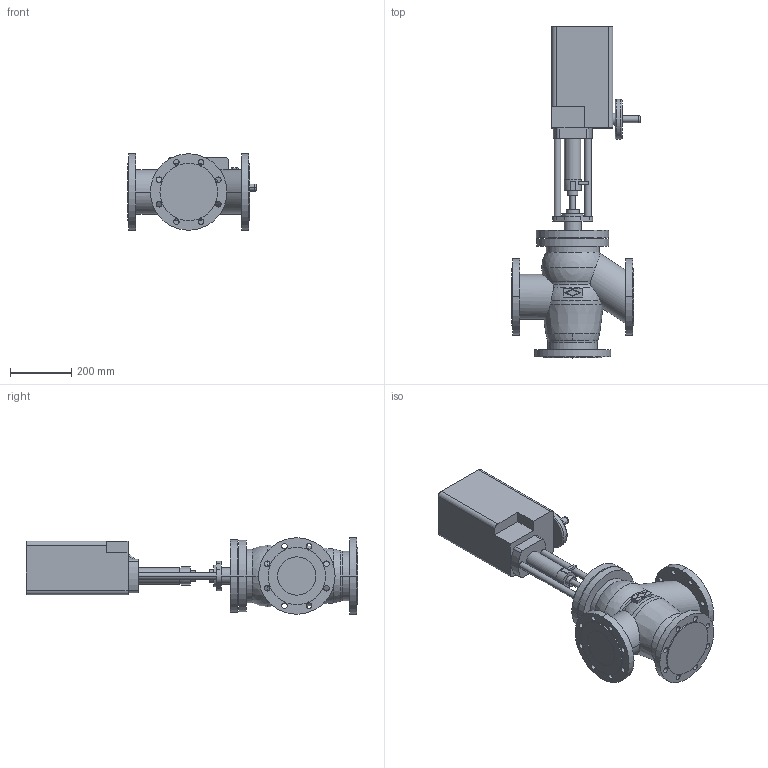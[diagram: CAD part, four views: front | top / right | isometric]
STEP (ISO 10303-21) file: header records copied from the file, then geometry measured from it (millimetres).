
FILE_DESCRIPTION(('OneSpaceDesigner STEP Export'),'2;1');
FILE_NAME('c000002404.stp','2007-01-26T12:33:46',(''),(''),'OneSpace Designer STEP processor for AP214 (Solid Model)','OneSpace Designer 14.00B 27-May-2006 (C) CoCreate Software GmbH','');
FILE_SCHEMA(('AUTOMOTIVE_DESIGN { 1 0 10303 214 1 1 1 1 }'));
Length unit declared in the file: millimetre
Products named in the file (2): 1; 2
Bounding box: 421.6 x 1085.5 x 250 mm (x, y, z)
Volume: 31188127.3 mm3; surface area: 1183973.6 mm2
Topology: 2 solids, 2 shells, 222 faces, 565 edges, 370 vertices
Faces by surface type: cylinder 116, plane 82, torus 14, sphere 8, cone 2
Entity records: 6233 total; most frequent: CARTESIAN_POINT 1274, ORIENTED_EDGE 1114, DIRECTION 897, EDGE_CURVE 557, VERTEX_POINT 370, AXIS2_PLACEMENT_3D 330, EDGE_LOOP 301, VECTOR 237
